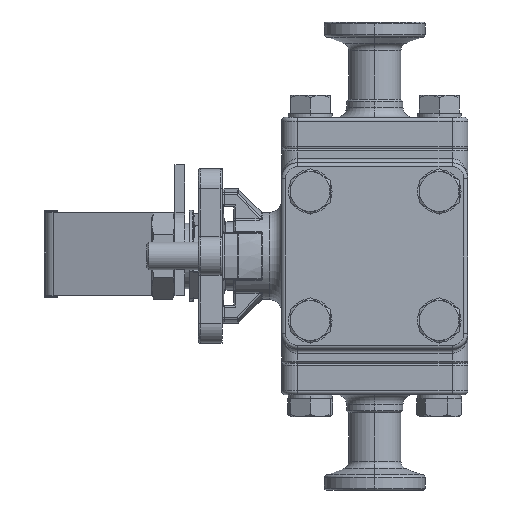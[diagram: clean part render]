
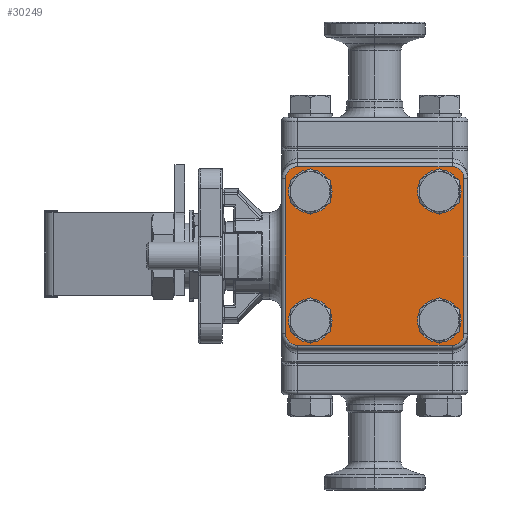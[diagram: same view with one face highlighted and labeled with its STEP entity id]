
A CAD part, left-side view. The second image highlights one B-rep face of the part: STEP entity #30249.
In plain terms, the highlighted planar face has unit normal (-1, 0, 0) as drawn and (0, 0, 1) by its records, which use the part's own axes.
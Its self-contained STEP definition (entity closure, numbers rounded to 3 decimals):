
#129 = CARTESIAN_POINT ( 'NONE',  ( 12.513, 16.263, 5. ) ) ;
#377 = DIRECTION ( 'NONE',  ( 0., 0., 1. ) ) ;
#414 = CARTESIAN_POINT ( 'NONE',  ( -12.513, 16.263, 5. ) ) ;
#467 = AXIS2_PLACEMENT_3D ( 'NONE', #13770, #377, #8036 ) ;
#652 = ORIENTED_EDGE ( 'NONE', *, *, #24455, .F. ) ;
#1005 = EDGE_LOOP ( 'NONE', ( #652, #13648 ) ) ;
#1121 = VERTEX_POINT ( 'NONE', #129 ) ;
#1293 = ORIENTED_EDGE ( 'NONE', *, *, #27713, .T. ) ;
#1381 = FACE_BOUND ( 'NONE', #9046, .T. ) ;
#1425 = AXIS2_PLACEMENT_3D ( 'NONE', #33631, #17662, #12087 ) ;
#1426 = EDGE_CURVE ( 'NONE', #4821, #20793, #12349, .T. ) ;
#1659 = CARTESIAN_POINT ( 'NONE',  ( 19.5, -19.5, 5. ) ) ;
#1832 = ORIENTED_EDGE ( 'NONE', *, *, #18608, .T. ) ;
#2200 = AXIS2_PLACEMENT_3D ( 'NONE', #26527, #20323, #15558 ) ;
#2231 = CIRCLE ( 'NONE', #21870, 3.75 ) ;
#2521 = DIRECTION ( 'NONE',  ( 1., 0., 0. ) ) ;
#2564 = CARTESIAN_POINT ( 'NONE',  ( 16.263, 16.263, 5. ) ) ;
#2898 = EDGE_CURVE ( 'NONE', #10007, #23798, #8976, .T. ) ;
#3034 = FACE_BOUND ( 'NONE', #1005, .T. ) ;
#3279 = ORIENTED_EDGE ( 'NONE', *, *, #15906, .F. ) ;
#3421 = DIRECTION ( 'NONE',  ( 0., 0., 1. ) ) ;
#3556 = VECTOR ( 'NONE', #32555, 1000. ) ;
#3585 = VECTOR ( 'NONE', #24100, 1000. ) ;
#4821 = VERTEX_POINT ( 'NONE', #29504 ) ;
#4835 = AXIS2_PLACEMENT_3D ( 'NONE', #14266, #3421, #16959 ) ;
#5227 = ORIENTED_EDGE ( 'NONE', *, *, #2898, .T. ) ;
#5523 = CIRCLE ( 'NONE', #32952, 3.75 ) ;
#6133 = DIRECTION ( 'NONE',  ( 0., 0., 1. ) ) ;
#6740 = FACE_BOUND ( 'NONE', #32468, .T. ) ;
#6787 = VERTEX_POINT ( 'NONE', #12636 ) ;
#7203 = DIRECTION ( 'NONE',  ( 0., 0., 1. ) ) ;
#7778 = AXIS2_PLACEMENT_3D ( 'NONE', #33397, #28423, #17457 ) ;
#8036 = DIRECTION ( 'NONE',  ( 1., 0., 0. ) ) ;
#8652 = CIRCLE ( 'NONE', #7778, 3.75 ) ;
#8725 = EDGE_CURVE ( 'NONE', #1121, #6787, #17368, .T. ) ;
#8931 = CARTESIAN_POINT ( 'NONE',  ( -16.263, 16.263, 5. ) ) ;
#8953 = VERTEX_POINT ( 'NONE', #25214 ) ;
#8976 = LINE ( 'NONE', #16870, #3556 ) ;
#9046 = EDGE_LOOP ( 'NONE', ( #28428, #22649 ) ) ;
#9700 = CARTESIAN_POINT ( 'NONE',  ( -12.513, -16.263, 5. ) ) ;
#9856 = VECTOR ( 'NONE', #27584, 1000. ) ;
#10007 = VERTEX_POINT ( 'NONE', #23853 ) ;
#10137 = FACE_BOUND ( 'NONE', #27657, .T. ) ;
#11023 = DIRECTION ( 'NONE',  ( 0., 0., 1. ) ) ;
#11110 = EDGE_CURVE ( 'NONE', #6787, #1121, #2231, .T. ) ;
#11136 = DIRECTION ( 'NONE',  ( 1., 0., 0. ) ) ;
#11743 = CARTESIAN_POINT ( 'NONE',  ( -16.263, -16.263, 5. ) ) ;
#12087 = DIRECTION ( 'NONE',  ( 1., 0., 0. ) ) ;
#12324 = EDGE_CURVE ( 'NONE', #21229, #10007, #22090, .T. ) ;
#12349 = LINE ( 'NONE', #21307, #3585 ) ;
#12636 = CARTESIAN_POINT ( 'NONE',  ( 20.013, 16.263, 5. ) ) ;
#12767 = ORIENTED_EDGE ( 'NONE', *, *, #11110, .F. ) ;
#13000 = CARTESIAN_POINT ( 'NONE',  ( 16.263, -16.263, 5. ) ) ;
#13314 = AXIS2_PLACEMENT_3D ( 'NONE', #29255, #32074, #13363 ) ;
#13363 = DIRECTION ( 'NONE',  ( 1., 0., 0. ) ) ;
#13423 = CIRCLE ( 'NONE', #13314, 3. ) ;
#13593 = CARTESIAN_POINT ( 'NONE',  ( -19.5, 19.5, 5. ) ) ;
#13648 = ORIENTED_EDGE ( 'NONE', *, *, #20196, .F. ) ;
#13770 = CARTESIAN_POINT ( 'NONE',  ( 19.5, -19.5, 5. ) ) ;
#14266 = CARTESIAN_POINT ( 'NONE',  ( 19.5, 19.5, 5. ) ) ;
#14320 = DIRECTION ( 'NONE',  ( 1., 0., 0. ) ) ;
#15069 = PLANE ( 'NONE',  #26356 ) ;
#15552 = VECTOR ( 'NONE', #34107, 1000. ) ;
#15558 = DIRECTION ( 'NONE',  ( 1., 0., 0. ) ) ;
#15648 = DIRECTION ( 'NONE',  ( 1., 0., 0. ) ) ;
#15906 = EDGE_CURVE ( 'NONE', #8953, #25814, #20193, .T. ) ;
#16043 = CARTESIAN_POINT ( 'NONE',  ( 22.5, -19.5, 5. ) ) ;
#16610 = AXIS2_PLACEMENT_3D ( 'NONE', #8931, #6133, #30086 ) ;
#16870 = CARTESIAN_POINT ( 'NONE',  ( -22.5, -19.5, 5. ) ) ;
#16959 = DIRECTION ( 'NONE',  ( 1., 0., 0. ) ) ;
#17121 = AXIS2_PLACEMENT_3D ( 'NONE', #13000, #31718, #2521 ) ;
#17368 = CIRCLE ( 'NONE', #26294, 3.75 ) ;
#17398 = DIRECTION ( 'NONE',  ( 0., 0., 1. ) ) ;
#17457 = DIRECTION ( 'NONE',  ( 1., 0., 0. ) ) ;
#17662 = DIRECTION ( 'NONE',  ( 0., 0., 1. ) ) ;
#18049 = FACE_OUTER_BOUND ( 'NONE', #32698, .T. ) ;
#18153 = CARTESIAN_POINT ( 'NONE',  ( 16.263, 16.263, 5. ) ) ;
#18202 = EDGE_CURVE ( 'NONE', #33753, #32602, #5523, .T. ) ;
#18334 = CIRCLE ( 'NONE', #16610, 3.75 ) ;
#18404 = EDGE_CURVE ( 'NONE', #29729, #20694, #33878, .T. ) ;
#18608 = EDGE_CURVE ( 'NONE', #23798, #4821, #13423, .T. ) ;
#18872 = ORIENTED_EDGE ( 'NONE', *, *, #18404, .T. ) ;
#18996 = LINE ( 'NONE', #24679, #9856 ) ;
#19056 = ORIENTED_EDGE ( 'NONE', *, *, #26602, .F. ) ;
#20193 = CIRCLE ( 'NONE', #1425, 3.75 ) ;
#20196 = EDGE_CURVE ( 'NONE', #33557, #31095, #32937, .T. ) ;
#20305 = ORIENTED_EDGE ( 'NONE', *, *, #8725, .F. ) ;
#20323 = DIRECTION ( 'NONE',  ( 0., 0., 1. ) ) ;
#20694 = VERTEX_POINT ( 'NONE', #25635 ) ;
#20793 = VERTEX_POINT ( 'NONE', #33852 ) ;
#21148 = DIRECTION ( 'NONE',  ( 0., 0., 1. ) ) ;
#21229 = VERTEX_POINT ( 'NONE', #26258 ) ;
#21307 = CARTESIAN_POINT ( 'NONE',  ( 19.5, -22.5, 5. ) ) ;
#21589 = EDGE_CURVE ( 'NONE', #32602, #33753, #8652, .T. ) ;
#21751 = CARTESIAN_POINT ( 'NONE',  ( -20.013, 16.263, 5. ) ) ;
#21870 = AXIS2_PLACEMENT_3D ( 'NONE', #2564, #21148, #15648 ) ;
#22090 = CIRCLE ( 'NONE', #22397, 3. ) ;
#22289 = EDGE_CURVE ( 'NONE', #20793, #29729, #24844, .T. ) ;
#22397 = AXIS2_PLACEMENT_3D ( 'NONE', #13593, #11023, #11136 ) ;
#22649 = ORIENTED_EDGE ( 'NONE', *, *, #18202, .F. ) ;
#23232 = DIRECTION ( 'NONE',  ( 1., 0., 0. ) ) ;
#23429 = CARTESIAN_POINT ( 'NONE',  ( 22.5, 19.5, 5. ) ) ;
#23798 = VERTEX_POINT ( 'NONE', #34277 ) ;
#23853 = CARTESIAN_POINT ( 'NONE',  ( -22.5, 19.5, 5. ) ) ;
#24100 = DIRECTION ( 'NONE',  ( 1., 0., 0. ) ) ;
#24455 = EDGE_CURVE ( 'NONE', #31095, #33557, #18334, .T. ) ;
#24679 = CARTESIAN_POINT ( 'NONE',  ( -19.5, 22.5, 5. ) ) ;
#24739 = VERTEX_POINT ( 'NONE', #33964 ) ;
#24760 = CARTESIAN_POINT ( 'NONE',  ( 20.013, -16.263, 5. ) ) ;
#24844 = CIRCLE ( 'NONE', #467, 3. ) ;
#25214 = CARTESIAN_POINT ( 'NONE',  ( 12.513, -16.263, 5. ) ) ;
#25367 = ORIENTED_EDGE ( 'NONE', *, *, #22289, .T. ) ;
#25635 = CARTESIAN_POINT ( 'NONE',  ( 22.5, 19.5, 5. ) ) ;
#25814 = VERTEX_POINT ( 'NONE', #24760 ) ;
#26258 = CARTESIAN_POINT ( 'NONE',  ( -19.5, 22.5, 5. ) ) ;
#26294 = AXIS2_PLACEMENT_3D ( 'NONE', #18153, #7203, #23232 ) ;
#26356 = AXIS2_PLACEMENT_3D ( 'NONE', #1659, #17398, #33221 ) ;
#26527 = CARTESIAN_POINT ( 'NONE',  ( -16.263, 16.263, 5. ) ) ;
#26602 = EDGE_CURVE ( 'NONE', #25814, #8953, #34473, .T. ) ;
#26942 = ORIENTED_EDGE ( 'NONE', *, *, #1426, .T. ) ;
#27584 = DIRECTION ( 'NONE',  ( -1., 0., 0. ) ) ;
#27657 = EDGE_LOOP ( 'NONE', ( #20305, #12767 ) ) ;
#27713 = EDGE_CURVE ( 'NONE', #20694, #24739, #33993, .T. ) ;
#27911 = ORIENTED_EDGE ( 'NONE', *, *, #12324, .T. ) ;
#28423 = DIRECTION ( 'NONE',  ( 0., 0., 1. ) ) ;
#28428 = ORIENTED_EDGE ( 'NONE', *, *, #21589, .F. ) ;
#29255 = CARTESIAN_POINT ( 'NONE',  ( -19.5, -19.5, 5. ) ) ;
#29504 = CARTESIAN_POINT ( 'NONE',  ( -19.5, -22.5, 5. ) ) ;
#29729 = VERTEX_POINT ( 'NONE', #16043 ) ;
#30086 = DIRECTION ( 'NONE',  ( 1., 0., 0. ) ) ;
#30216 = DIRECTION ( 'NONE',  ( 0., 0., 1. ) ) ;
#30249 = ADVANCED_FACE ( 'NONE', ( #18049, #1381, #10137, #6740, #3034 ), #15069, .T. ) ;
#31095 = VERTEX_POINT ( 'NONE', #21751 ) ;
#31718 = DIRECTION ( 'NONE',  ( 0., 0., 1. ) ) ;
#32074 = DIRECTION ( 'NONE',  ( 0., 0., 1. ) ) ;
#32468 = EDGE_LOOP ( 'NONE', ( #3279, #19056 ) ) ;
#32555 = DIRECTION ( 'NONE',  ( 0., -1., 0. ) ) ;
#32602 = VERTEX_POINT ( 'NONE', #34296 ) ;
#32698 = EDGE_LOOP ( 'NONE', ( #18872, #1293, #33111, #27911, #5227, #1832, #26942, #25367 ) ) ;
#32937 = CIRCLE ( 'NONE', #2200, 3.75 ) ;
#32952 = AXIS2_PLACEMENT_3D ( 'NONE', #11743, #30216, #14320 ) ;
#33111 = ORIENTED_EDGE ( 'NONE', *, *, #33320, .T. ) ;
#33221 = DIRECTION ( 'NONE',  ( 1., 0., 0. ) ) ;
#33320 = EDGE_CURVE ( 'NONE', #24739, #21229, #18996, .T. ) ;
#33397 = CARTESIAN_POINT ( 'NONE',  ( -16.263, -16.263, 5. ) ) ;
#33557 = VERTEX_POINT ( 'NONE', #414 ) ;
#33631 = CARTESIAN_POINT ( 'NONE',  ( 16.263, -16.263, 5. ) ) ;
#33753 = VERTEX_POINT ( 'NONE', #9700 ) ;
#33852 = CARTESIAN_POINT ( 'NONE',  ( 19.5, -22.5, 5. ) ) ;
#33878 = LINE ( 'NONE', #23429, #15552 ) ;
#33964 = CARTESIAN_POINT ( 'NONE',  ( 19.5, 22.5, 5. ) ) ;
#33993 = CIRCLE ( 'NONE', #4835, 3. ) ;
#34107 = DIRECTION ( 'NONE',  ( 0., 1., 0. ) ) ;
#34277 = CARTESIAN_POINT ( 'NONE',  ( -22.5, -19.5, 5. ) ) ;
#34296 = CARTESIAN_POINT ( 'NONE',  ( -20.013, -16.263, 5. ) ) ;
#34473 = CIRCLE ( 'NONE', #17121, 3.75 ) ;
